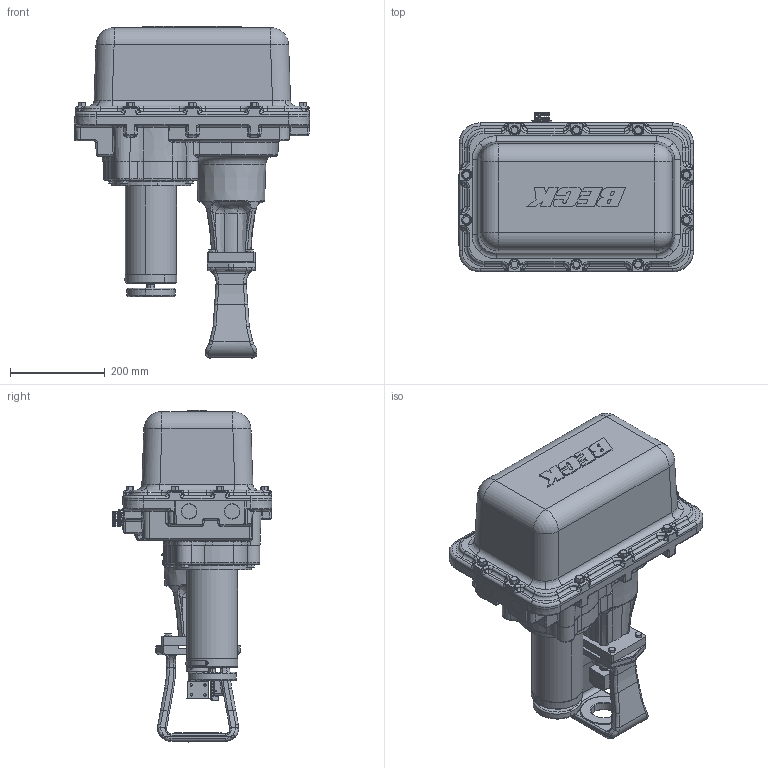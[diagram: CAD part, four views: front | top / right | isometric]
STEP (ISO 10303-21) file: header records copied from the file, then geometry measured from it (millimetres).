
FILE_DESCRIPTION (( 'STEP AP203' ), '1' );
FILE_NAME ('18-2920-01.STEP', '2011-06-24T15:32:07', ( '' ), ( '' ), 'SwSTEP 2.0', 'SolidWorks 2009', '' );
FILE_SCHEMA (( 'CONFIG_CONTROL_DESIGN' ));
Products named in the file (1): 18-2920-01
Bounding box: 495.41 x 336.64 x 699.29 mm (x, y, z)
Surface area: 1223984.6 mm2 (no closed solid volume)
Topology: 0 solids, 156 shells, 2012 faces, 9072 edges, 7075 vertices
Faces by surface type: cylinder 629, plane 602, bspline 379, cone 162, torus 150, sphere 90
Entity records: 172101 total; most frequent: CARTESIAN_POINT 104576, ORIENTED_EDGE 13052, DIRECTION 12253, EDGE_CURVE 9048, VERTEX_POINT 7075, VECTOR 4221, LINE 4221, AXIS2_PLACEMENT_3D 4016
